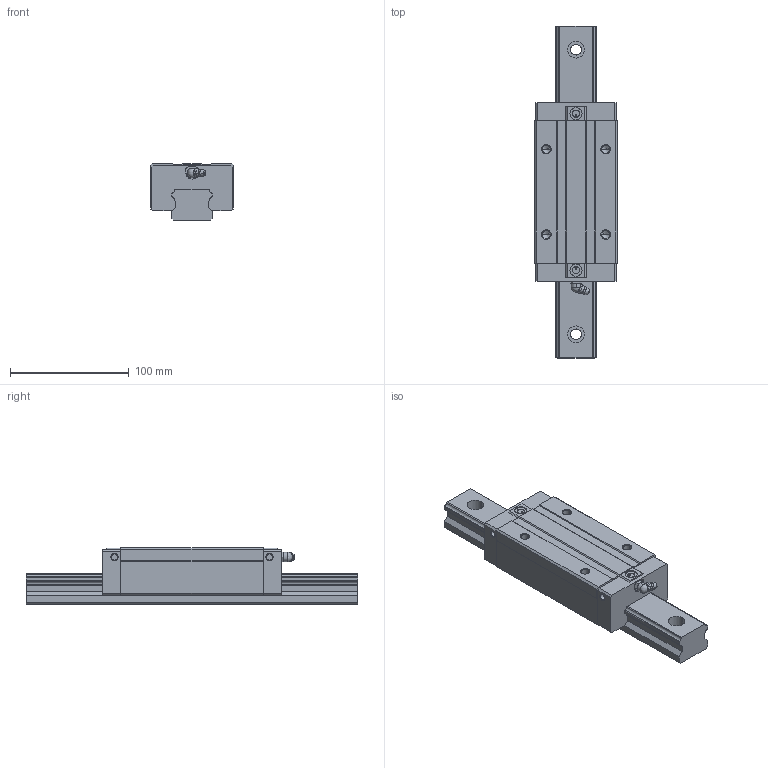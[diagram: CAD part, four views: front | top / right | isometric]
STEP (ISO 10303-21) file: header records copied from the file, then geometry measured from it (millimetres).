
FILE_DESCRIPTION((''),'1');
FILE_NAME(' ',' ',(''),(''),'ACIS Interop R16','Kubotek KeyCreator V6.5.2 (0407)',' ');
FILE_SCHEMA(('CONFIG_CONTROL_DESIGN'));
Length unit declared in the file: millimetre
Products named in the file (3): 1; 2; 3
Bounding box: 70 x 280 x 48 mm (x, y, z)
Volume: 544877 mm3; surface area: 83780.3 mm2
Topology: 3 solids, 3 shells, 232 faces, 607 edges, 391 vertices
Faces by surface type: plane 113, cylinder 74, cone 26, torus 10, sphere 7, bspline 2
Entity records: 7370 total; most frequent: CARTESIAN_POINT 1417, DIRECTION 1260, ORIENTED_EDGE 1186, EDGE_CURVE 593, AXIS2_PLACEMENT_3D 454, VERTEX_POINT 391, LINE 352, VECTOR 352
